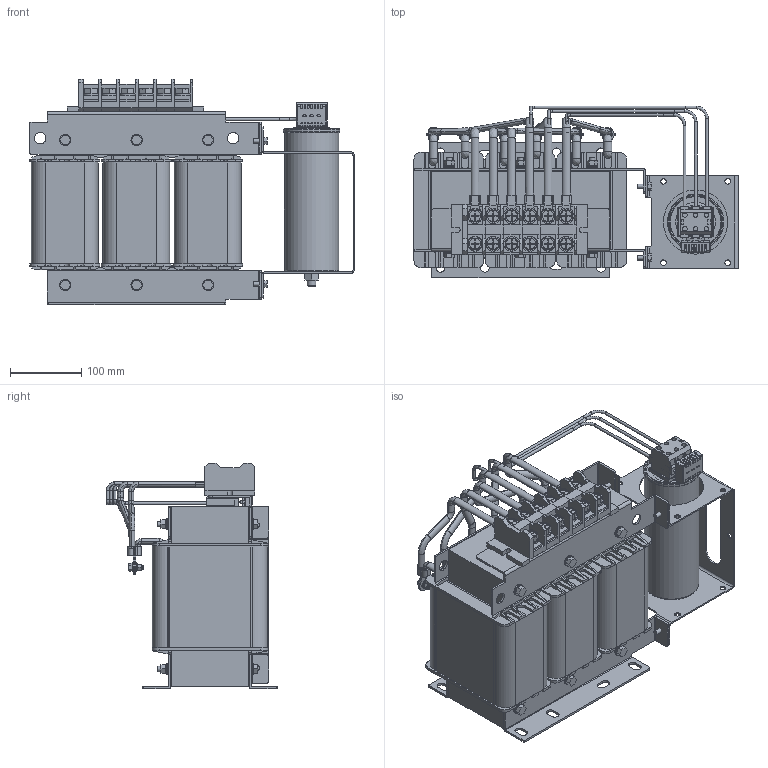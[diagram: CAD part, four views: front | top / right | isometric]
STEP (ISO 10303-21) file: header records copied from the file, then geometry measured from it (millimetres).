
FILE_DESCRIPTION (( 'STEP AP203' ), '1' );
FILE_NAME ('蔓躅漤铋 耔眢耥 翳朦蝠 _ ISINOF-45_91-4.STEP', '2026-07-20T07:19:55', ( '' ), ( '' ), 'SwSTEP 2.0', 'SolidWorks 2021', '' );
FILE_SCHEMA (( 'CONFIG_CONTROL_DESIGN' ));
Length unit declared in the file: millimetre
Products named in the file (207): 45KW滤波电抗器380V50Hz_135; 45KW滤波电抗器380V50Hz_83; 45KW滤波电抗器380V50Hz_25; 45KW滤波电抗器380V50Hz_128; 45KW滤波电抗器380V50Hz_170; 45KW滤波电抗器380V50Hz_68; 45KW滤波电抗器380V50Hz_72; 45KW滤波电抗器380V50Hz_53; 45KW滤波电抗器380V50Hz_122; 45KW滤波电抗器380V50Hz_131; 45KW滤波电抗器380V50Hz_67; 45KW滤波电抗器380V50Hz_173; 45KW滤波电抗器380V50Hz_196; 45KW滤波电抗器380V50Hz_23; 45KW滤波电抗器380V50Hz_190; 45KW滤波电抗器380V50Hz_1; 45KW滤波电抗器380V50Hz_77; 45KW滤波电抗器380V50Hz_188; 45KW滤波电抗器380V50Hz_104; 45KW滤波电抗器380V50Hz_139; 45KW滤波电抗器380V50Hz_46; 45KW滤波电抗器380V50Hz_44; 45KW滤波电抗器380V50Hz_149; 45KW滤波电抗器380V50Hz_109; 45KW滤波电抗器380V50Hz_48; 45KW滤波电抗器380V50Hz_168; 45KW滤波电抗器380V50Hz_65; 45KW滤波电抗器380V50Hz_124; 45KW滤波电抗器380V50Hz; 45KW滤波电抗器380V50Hz_94; 45KW滤波电抗器380V50Hz_114; 45KW滤波电抗器380V50Hz_70; 45KW滤波电抗器380V50Hz_54; 45KW滤波电抗器380V50Hz_116; 45KW滤波电抗器380V50Hz_151; 45KW滤波电抗器380V50Hz_40; 45KW滤波电抗器380V50Hz_205; 45KW滤波电抗器380V50Hz_87; 45KW滤波电抗器380V50Hz_127; 45KW滤波电抗器380V50Hz_162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
Assembly tree (206 placements, depth 2):
  蔓躅漤铋 耔眢耥 翳朦蝠 _ ISINOF-45_91-4
    45KW滤波电抗器380V50Hz_120
    45KW滤波电抗器380V50Hz_23
    45KW滤波电抗器380V50Hz_109
    45KW滤波电抗器380V50Hz_194
    45KW滤波电抗器380V50Hz_26
    45KW滤波电抗器380V50Hz_33
    45KW滤波电抗器380V50Hz_66
    45KW滤波电抗器380V50Hz_41
    45KW滤波电抗器380V50Hz_14
    45KW滤波电抗器380V50Hz_161
    45KW滤波电抗器380V50Hz_153
    45KW滤波电抗器380V50Hz_64
    45KW滤波电抗器380V50Hz_132
    45KW滤波电抗器380V50Hz_51
    45KW滤波电抗器380V50Hz_35
    45KW滤波电抗器380V50Hz_178
    45KW滤波电抗器380V50Hz_56
    45KW滤波电抗器380V50Hz_182
    45KW滤波电抗器380V50Hz_143
    45KW滤波电抗器380V50Hz_179
    45KW滤波电抗器380V50Hz_9
    45KW滤波电抗器380V50Hz_168
    45KW滤波电抗器380V50Hz_135
    45KW滤波电抗器380V50Hz_24
    45KW滤波电抗器380V50Hz_95
    45KW滤波电抗器380V50Hz_156
    45KW滤波电抗器380V50Hz_81
    45KW滤波电抗器380V50Hz_185
    45KW滤波电抗器380V50Hz_48
    45KW滤波电抗器380V50Hz_106
    45KW滤波电抗器380V50Hz_60
    45KW滤波电抗器380V50Hz_85
    45KW滤波电抗器380V50Hz_89
    45KW滤波电抗器380V50Hz_16
    45KW滤波电抗器380V50Hz_18
    45KW滤波电抗器380V50Hz_50
    45KW滤波电抗器380V50Hz_65
    45KW滤波电抗器380V50Hz_80
    45KW滤波电抗器380V50Hz_126
    45KW滤波电抗器380V50Hz_58
    45KW滤波电抗器380V50Hz_197
    45KW滤波电抗器380V50Hz_193
    45KW滤波电抗器380V50Hz_172
    45KW滤波电抗器380V50Hz_141
    45KW滤波电抗器380V50Hz_72
    45KW滤波电抗器380V50Hz_176
    45KW滤波电抗器380V50Hz_20
    45KW滤波电抗器380V50Hz_139
    45KW滤波电抗器380V50Hz_82
    45KW滤波电抗器380V50Hz_71
    45KW滤波电抗器380V50Hz_38
    45KW滤波电抗器380V50Hz_107
    45KW滤波电抗器380V50Hz_110
    45KW滤波电抗器380V50Hz_98
    45KW滤波电抗器380V50Hz_83
    45KW滤波电抗器380V50Hz_92
    45KW滤波电抗器380V50Hz_11
    45KW滤波电抗器380V50Hz_101
    45KW滤波电抗器380V50Hz_201
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Bounding box: 455 x 240.29 x 316.47 mm (x, y, z)
Volume: 11271175.2 mm3; surface area: 1967252.8 mm2
Topology: 206 solids, 206 shells, 3007 faces, 7703 edges, 5123 vertices
Faces by surface type: plane 2079, cylinder 676, bspline 153, cone 86, torus 13
Full cylindrical faces by diameter (mm): 4 x13, 5.053 x6, 6 x10, 6.3 x12, 6.45 x6, 6.5 x12, 8 x16, 9.55 x6, 9.961 x18, 12 x17, 12.471 x6, 13 x1, 16 x28, 21.538 x12, 24 x1, 73 x1, 76 x1, 79 x1, 90 x1
Entity records: 122911 total; most frequent: CARTESIAN_POINT 29944, ORIENTED_EDGE 14898, DIRECTION 13535, EDGE_CURVE 7449, LINE 5249, VECTOR 5249, VERTEX_POINT 5090, AXIS2_PLACEMENT_3D 4143
